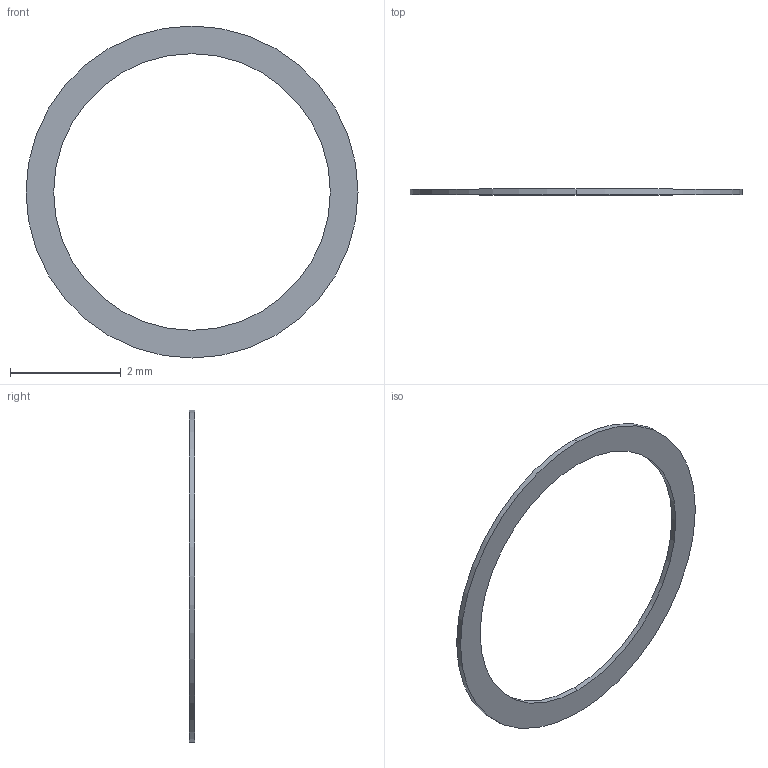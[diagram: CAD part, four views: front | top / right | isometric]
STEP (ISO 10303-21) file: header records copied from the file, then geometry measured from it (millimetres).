
FILE_DESCRIPTION(('Open CASCADE Model'),'2;1');
FILE_NAME('magnet-bondline-0p10-reference.step','2026-11-14T14:31:59',( 'Author'),('Open CASCADE'),'Open CASCADE STEP processor 8.0', 'Open CASCADE 8.0','Unknown');
FILE_SCHEMA(('AP242_MANAGED_MODEL_BASED_3D_ENGINEERING_MIM_LF {1 0 10303 442 1 1 4 }' ));
Length unit declared in the file: millimetre
Products named in the file (1): Magnet Bondline 0p10 Reference
Bounding box: 6 x 0.1 x 6 mm (x, y, z)
Volume: 0.9 mm3; surface area: 20.7 mm2
Topology: 1 solids, 1 shells, 6 faces, 12 edges, 8 vertices
Faces by surface type: cylinder 4, plane 2
Entity records: 340 total; most frequent: CARTESIAN_POINT 63, DIRECTION 56, ORIENTED_EDGE 24, PCURVE 24, DEFINITIONAL_REPRESENTATION 24, LINE 20, VECTOR 20, AXIS2_PLACEMENT_3D 15
